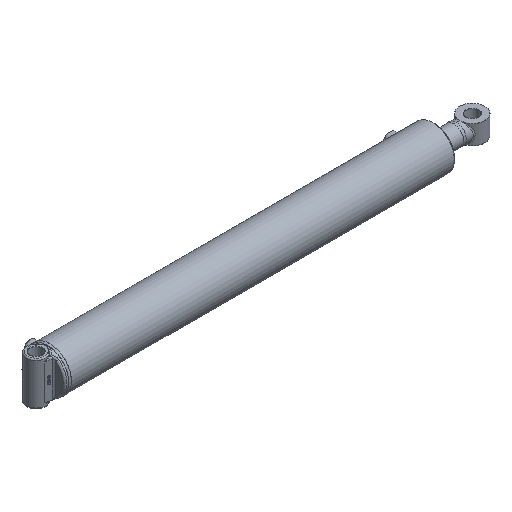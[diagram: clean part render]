
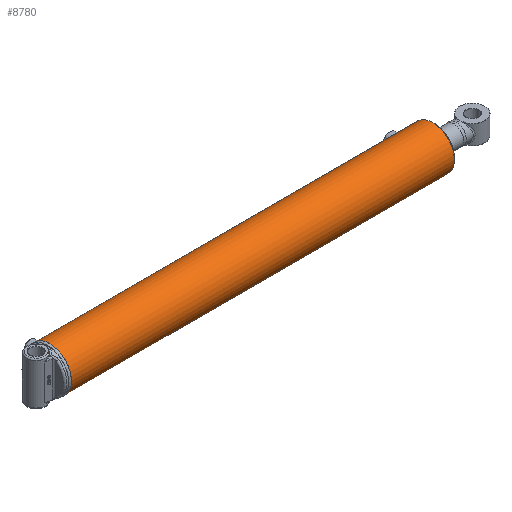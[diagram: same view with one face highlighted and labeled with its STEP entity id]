
A CAD part, isometric view. The second image highlights one B-rep face of the part: STEP entity #8780.
In plain terms, the highlighted cylindrical face has radius 56.356 mm (diameter 112.712 mm), a full revolution.
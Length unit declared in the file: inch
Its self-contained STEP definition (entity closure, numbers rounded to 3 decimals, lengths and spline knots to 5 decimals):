
#808=B_SPLINE_CURVE_WITH_KNOTS('',3,(#13133,#13134,#13135,#13136,#13137,
#13138,#13139,#13140,#13141,#13142),.UNSPECIFIED.,.F.,.F.,(4,2,2,2,4),(0.,
0.23942,0.47883,0.71824,0.95766),
 .UNSPECIFIED.);
#809=B_SPLINE_CURVE_WITH_KNOTS('',3,(#13143,#13144,#13145,#13146,#13147,
#13148,#13149,#13150,#13151,#13152,#13153,#13154,#13155,#13156,#13157,#13158,
#13159,#13160,#13161,#13162,#13163,#13164,#13165,#13166,#13167,#13168),
 .UNSPECIFIED.,.F.,.F.,(4,2,2,2,2,2,2,2,2,2,2,2,4),(0.95766,1.19707,
1.43649,1.6759,1.91532,2.15473,2.39415,
2.63356,2.87297,3.11239,3.3518,3.59122,
3.83063),.UNSPECIFIED.);
#810=B_SPLINE_CURVE_WITH_KNOTS('',3,(#13173,#13174,#13175,#13176,#13177,
#13178,#13179,#13180,#13181,#13182),.UNSPECIFIED.,.F.,.F.,(4,2,2,2,4),(0.,
0.23942,0.47883,0.71824,0.95766),
 .UNSPECIFIED.);
#811=B_SPLINE_CURVE_WITH_KNOTS('',3,(#13183,#13184,#13185,#13186,#13187,
#13188,#13189,#13190,#13191,#13192,#13193,#13194,#13195,#13196,#13197,#13198,
#13199,#13200,#13201,#13202,#13203,#13204,#13205,#13206,#13207,#13208),
 .UNSPECIFIED.,.F.,.F.,(4,2,2,2,2,2,2,2,2,2,2,2,4),(0.95766,1.19707,
1.43649,1.6759,1.91532,2.15473,2.39415,
2.63356,2.87297,3.11239,3.3518,3.59122,
3.83063),.UNSPECIFIED.);
#1096=FACE_BOUND('',#2595,.T.);
#1097=FACE_BOUND('',#2596,.T.);
#1352=LINE('',#13244,#1693);
#1693=VECTOR('',#10661,2.21875);
#2031=CYLINDRICAL_SURFACE('',#9525,2.21875);
#2119=FACE_OUTER_BOUND('',#2594,.T.);
#2594=EDGE_LOOP('',(#6139,#6140,#6141,#6142,#6143,#6144));
#2595=EDGE_LOOP('',(#6145,#6146));
#2596=EDGE_LOOP('',(#6147,#6148));
#3157=CIRCLE('',#9522,2.21875);
#3159=CIRCLE('',#9524,2.21875);
#3160=CIRCLE('',#9526,2.21875);
#3161=CIRCLE('',#9527,2.21875);
#3801=VERTEX_POINT('',#13130);
#3802=VERTEX_POINT('',#13132);
#3803=VERTEX_POINT('',#13170);
#3804=VERTEX_POINT('',#13172);
#3815=VERTEX_POINT('',#13237);
#3816=VERTEX_POINT('',#13238);
#3817=VERTEX_POINT('',#13243);
#3818=VERTEX_POINT('',#13245);
#4736=EDGE_CURVE('',#3802,#3801,#808,.T.);
#4737=EDGE_CURVE('',#3801,#3802,#809,.T.);
#4739=EDGE_CURVE('',#3804,#3803,#810,.T.);
#4740=EDGE_CURVE('',#3803,#3804,#811,.T.);
#4754=EDGE_CURVE('',#3815,#3816,#3157,.T.);
#4756=EDGE_CURVE('',#3816,#3815,#3159,.T.);
#4757=EDGE_CURVE('',#3815,#3817,#1352,.T.);
#4758=EDGE_CURVE('',#3818,#3817,#3160,.T.);
#4759=EDGE_CURVE('',#3817,#3818,#3161,.T.);
#6139=ORIENTED_EDGE('',*,*,#4754,.F.);
#6140=ORIENTED_EDGE('',*,*,#4757,.T.);
#6141=ORIENTED_EDGE('',*,*,#4758,.F.);
#6142=ORIENTED_EDGE('',*,*,#4759,.F.);
#6143=ORIENTED_EDGE('',*,*,#4757,.F.);
#6144=ORIENTED_EDGE('',*,*,#4756,.F.);
#6145=ORIENTED_EDGE('',*,*,#4736,.T.);
#6146=ORIENTED_EDGE('',*,*,#4737,.T.);
#6147=ORIENTED_EDGE('',*,*,#4739,.T.);
#6148=ORIENTED_EDGE('',*,*,#4740,.T.);
#8780=ADVANCED_FACE('',(#2119,#1096,#1097),#2031,.T.);
#9522=AXIS2_PLACEMENT_3D('',#13239,#10653,#10654);
#9524=AXIS2_PLACEMENT_3D('',#13241,#10657,#10658);
#9525=AXIS2_PLACEMENT_3D('',#13242,#10659,#10660);
#9526=AXIS2_PLACEMENT_3D('',#13246,#10662,#10663);
#9527=AXIS2_PLACEMENT_3D('',#13247,#10664,#10665);
#10653=DIRECTION('center_axis',(1.,0.,0.));
#10654=DIRECTION('ref_axis',(0.,-1.,0.));
#10657=DIRECTION('center_axis',(1.,0.,0.));
#10658=DIRECTION('ref_axis',(0.,-1.,0.));
#10659=DIRECTION('center_axis',(1.,0.,0.));
#10660=DIRECTION('ref_axis',(0.,-1.,0.));
#10661=DIRECTION('',(-1.,0.,0.));
#10662=DIRECTION('center_axis',(-1.,0.,0.));
#10663=DIRECTION('ref_axis',(0.,-1.,0.));
#10664=DIRECTION('center_axis',(-1.,0.,0.));
#10665=DIRECTION('ref_axis',(0.,-1.,0.));
#13130=CARTESIAN_POINT('',(0.75,0.,2.21875));
#13132=CARTESIAN_POINT('',(1.,-0.25,2.20462));
#13133=CARTESIAN_POINT('Ctrl Pts',(1.,-0.25,2.20462));
#13134=CARTESIAN_POINT('Ctrl Pts',(0.96858,-0.25,2.20462));
#13135=CARTESIAN_POINT('Ctrl Pts',(0.93509,-0.24372,
2.20536));
#13136=CARTESIAN_POINT('Ctrl Pts',(0.8735,-0.21819,
2.20803));
#13137=CARTESIAN_POINT('Ctrl Pts',(0.8454,-0.19896,
2.20992));
#13138=CARTESIAN_POINT('Ctrl Pts',(0.80104,-0.1546,
2.21347));
#13139=CARTESIAN_POINT('Ctrl Pts',(0.78181,-0.1265,
2.21536));
#13140=CARTESIAN_POINT('Ctrl Pts',(0.75628,-0.06491,
2.21801));
#13141=CARTESIAN_POINT('Ctrl Pts',(0.75,-0.03142,2.21875));
#13142=CARTESIAN_POINT('Ctrl Pts',(0.75,0.,2.21875));
#13143=CARTESIAN_POINT('Ctrl Pts',(0.75,0.,2.21875));
#13144=CARTESIAN_POINT('Ctrl Pts',(0.75,0.03142,2.21875));
#13145=CARTESIAN_POINT('Ctrl Pts',(0.75628,0.06491,2.21801));
#13146=CARTESIAN_POINT('Ctrl Pts',(0.78181,0.1265,
2.21536));
#13147=CARTESIAN_POINT('Ctrl Pts',(0.80104,0.1546,
2.21347));
#13148=CARTESIAN_POINT('Ctrl Pts',(0.8454,0.19896,
2.20992));
#13149=CARTESIAN_POINT('Ctrl Pts',(0.8735,0.21819,2.20803));
#13150=CARTESIAN_POINT('Ctrl Pts',(0.93509,0.24372,
2.20536));
#13151=CARTESIAN_POINT('Ctrl Pts',(0.96858,0.25,2.20462));
#13152=CARTESIAN_POINT('Ctrl Pts',(1.03142,0.25,2.20462));
#13153=CARTESIAN_POINT('Ctrl Pts',(1.06491,0.24372,2.20536));
#13154=CARTESIAN_POINT('Ctrl Pts',(1.1265,0.21819,2.20803));
#13155=CARTESIAN_POINT('Ctrl Pts',(1.1546,0.19896,2.20992));
#13156=CARTESIAN_POINT('Ctrl Pts',(1.19896,0.1546,2.21347));
#13157=CARTESIAN_POINT('Ctrl Pts',(1.21819,0.1265,2.21536));
#13158=CARTESIAN_POINT('Ctrl Pts',(1.24372,0.06491,
2.21801));
#13159=CARTESIAN_POINT('Ctrl Pts',(1.25,0.03142,2.21875));
#13160=CARTESIAN_POINT('Ctrl Pts',(1.25,-0.03142,2.21875));
#13161=CARTESIAN_POINT('Ctrl Pts',(1.24372,-0.06491,
2.21801));
#13162=CARTESIAN_POINT('Ctrl Pts',(1.21819,-0.1265,
2.21536));
#13163=CARTESIAN_POINT('Ctrl Pts',(1.19896,-0.1546,
2.21347));
#13164=CARTESIAN_POINT('Ctrl Pts',(1.1546,-0.19896,
2.20992));
#13165=CARTESIAN_POINT('Ctrl Pts',(1.1265,-0.21819,2.20803));
#13166=CARTESIAN_POINT('Ctrl Pts',(1.06491,-0.24372,2.20536));
#13167=CARTESIAN_POINT('Ctrl Pts',(1.03142,-0.25,2.20462));
#13168=CARTESIAN_POINT('Ctrl Pts',(1.,-0.25,2.20462));
#13170=CARTESIAN_POINT('',(37.87,0.,2.21875));
#13172=CARTESIAN_POINT('',(38.12,-0.25,2.20462));
#13173=CARTESIAN_POINT('Ctrl Pts',(38.12,-0.25,2.20462));
#13174=CARTESIAN_POINT('Ctrl Pts',(38.08858,-0.25,
2.20462));
#13175=CARTESIAN_POINT('Ctrl Pts',(38.05509,-0.24372,
2.20536));
#13176=CARTESIAN_POINT('Ctrl Pts',(37.9935,-0.21819,
2.20803));
#13177=CARTESIAN_POINT('Ctrl Pts',(37.9654,-0.19896,2.20992));
#13178=CARTESIAN_POINT('Ctrl Pts',(37.92104,-0.1546,
2.21347));
#13179=CARTESIAN_POINT('Ctrl Pts',(37.90181,-0.1265,
2.21536));
#13180=CARTESIAN_POINT('Ctrl Pts',(37.87628,-0.06491,
2.21801));
#13181=CARTESIAN_POINT('Ctrl Pts',(37.87,-0.03142,2.21875));
#13182=CARTESIAN_POINT('Ctrl Pts',(37.87,0.,2.21875));
#13183=CARTESIAN_POINT('Ctrl Pts',(37.87,0.,2.21875));
#13184=CARTESIAN_POINT('Ctrl Pts',(37.87,0.03142,2.21875));
#13185=CARTESIAN_POINT('Ctrl Pts',(37.87628,0.06491,
2.21801));
#13186=CARTESIAN_POINT('Ctrl Pts',(37.90181,0.1265,2.21536));
#13187=CARTESIAN_POINT('Ctrl Pts',(37.92104,0.1546,2.21347));
#13188=CARTESIAN_POINT('Ctrl Pts',(37.9654,0.19896,2.20992));
#13189=CARTESIAN_POINT('Ctrl Pts',(37.9935,0.21819,2.20803));
#13190=CARTESIAN_POINT('Ctrl Pts',(38.05509,0.24372,2.20536));
#13191=CARTESIAN_POINT('Ctrl Pts',(38.08858,0.25,2.20462));
#13192=CARTESIAN_POINT('Ctrl Pts',(38.15142,0.25,2.20462));
#13193=CARTESIAN_POINT('Ctrl Pts',(38.18491,0.24372,2.20536));
#13194=CARTESIAN_POINT('Ctrl Pts',(38.2465,0.21819,2.20803));
#13195=CARTESIAN_POINT('Ctrl Pts',(38.2746,0.19896,2.20992));
#13196=CARTESIAN_POINT('Ctrl Pts',(38.31896,0.1546,2.21347));
#13197=CARTESIAN_POINT('Ctrl Pts',(38.33819,0.1265,2.21536));
#13198=CARTESIAN_POINT('Ctrl Pts',(38.36372,0.06491,2.21801));
#13199=CARTESIAN_POINT('Ctrl Pts',(38.37,0.03142,2.21875));
#13200=CARTESIAN_POINT('Ctrl Pts',(38.37,-0.03142,2.21875));
#13201=CARTESIAN_POINT('Ctrl Pts',(38.36372,-0.06491,
2.21801));
#13202=CARTESIAN_POINT('Ctrl Pts',(38.33819,-0.1265,
2.21536));
#13203=CARTESIAN_POINT('Ctrl Pts',(38.31896,-0.1546,
2.21347));
#13204=CARTESIAN_POINT('Ctrl Pts',(38.2746,-0.19896,
2.20992));
#13205=CARTESIAN_POINT('Ctrl Pts',(38.2465,-0.21819,
2.20803));
#13206=CARTESIAN_POINT('Ctrl Pts',(38.18491,-0.24372,
2.20536));
#13207=CARTESIAN_POINT('Ctrl Pts',(38.15142,-0.25,
2.20462));
#13208=CARTESIAN_POINT('Ctrl Pts',(38.12,-0.25,2.20462));
#13237=CARTESIAN_POINT('',(39.61,2.21875,0.));
#13238=CARTESIAN_POINT('',(39.61,0.,-2.21875));
#13239=CARTESIAN_POINT('Origin',(39.61,0.,0.));
#13241=CARTESIAN_POINT('Origin',(39.61,0.,0.));
#13242=CARTESIAN_POINT('Origin',(0.,0.,0.));
#13243=CARTESIAN_POINT('',(0.11186,2.21875,0.));
#13244=CARTESIAN_POINT('',(0.,2.21875,0.));
#13245=CARTESIAN_POINT('',(0.11186,0.,2.21875));
#13246=CARTESIAN_POINT('Origin',(0.11186,0.,0.));
#13247=CARTESIAN_POINT('Origin',(0.11186,0.,0.));
